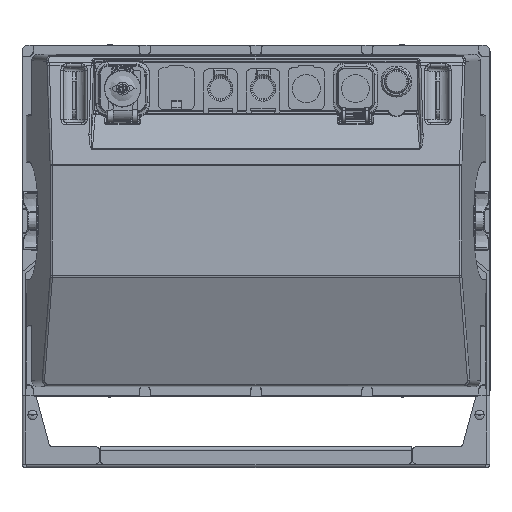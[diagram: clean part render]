
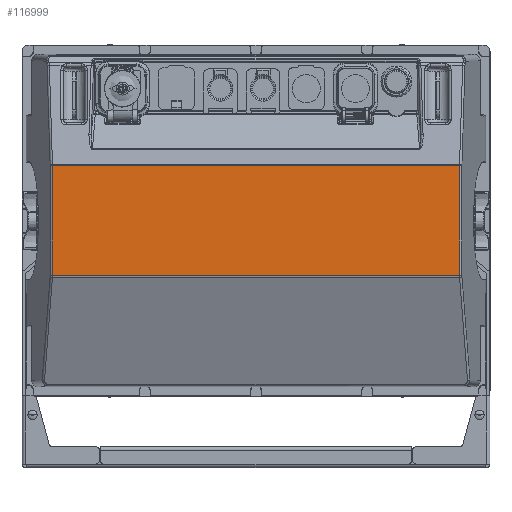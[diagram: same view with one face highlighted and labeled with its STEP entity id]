
A CAD part, front view. The second image highlights one B-rep face of the part: STEP entity #116999.
In plain terms, the highlighted planar face has unit normal (0, -1, 0).
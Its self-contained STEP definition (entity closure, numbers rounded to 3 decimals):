
#108056=DIRECTION('',(0.,0.,1.));
#108057=VECTOR('',#108056,93.523);
#108058=CARTESIAN_POINT('',(-173.989,-138.,-46.46));
#108059=LINE('',#108058,#108057);
#108060=DIRECTION('',(0.,0.,-1.));
#108061=VECTOR('',#108060,93.523);
#108062=CARTESIAN_POINT('',(173.989,-138.,47.063));
#108063=LINE('',#108062,#108061);
#111553=CARTESIAN_POINT('',(-173.989,-138.,-46.46));
#111555=DIRECTION('',(1.,0.,0.));
#111556=VECTOR('',#111555,347.977);
#111557=CARTESIAN_POINT('',(-173.989,-138.,-46.46));
#111558=LINE('',#111557,#111556);
#111586=CARTESIAN_POINT('',(173.989,-138.,47.063));
#111588=DIRECTION('',(-1.,0.,0.));
#111589=VECTOR('',#111588,347.977);
#111590=CARTESIAN_POINT('',(173.989,-138.,47.063));
#111591=LINE('',#111590,#111589);
#116425=VERTEX_POINT('',#111553);
#116428=CARTESIAN_POINT('',(-173.989,-138.,47.063));
#116429=VERTEX_POINT('',#116428);
#116461=VERTEX_POINT('',#111586);
#116464=CARTESIAN_POINT('',(173.989,-138.,-46.46));
#116465=VERTEX_POINT('',#116464);
#116984=CARTESIAN_POINT('',(-200.,-138.,47.5));
#116985=DIRECTION('',(0.,-1.,0.));
#116986=DIRECTION('',(0.,0.,-1.));
#116987=AXIS2_PLACEMENT_3D('',#116984,#116985,#116986);
#116988=PLANE('',#116987);
#116990=ORIENTED_EDGE('',*,*,#116989,.T.);
#116992=ORIENTED_EDGE('',*,*,#116991,.F.);
#116994=ORIENTED_EDGE('',*,*,#116993,.T.);
#116996=ORIENTED_EDGE('',*,*,#116995,.F.);
#116997=EDGE_LOOP('',(#116990,#116992,#116994,#116996));
#116998=FACE_OUTER_BOUND('',#116997,.F.);
#116989=EDGE_CURVE('',#116425,#116429,#108059,.T.);
#116991=EDGE_CURVE('',#116461,#116429,#111591,.T.);
#116993=EDGE_CURVE('',#116461,#116465,#108063,.T.);
#116995=EDGE_CURVE('',#116425,#116465,#111558,.T.);
#116999=ADVANCED_FACE('',(#116998),#116988,.T.);
